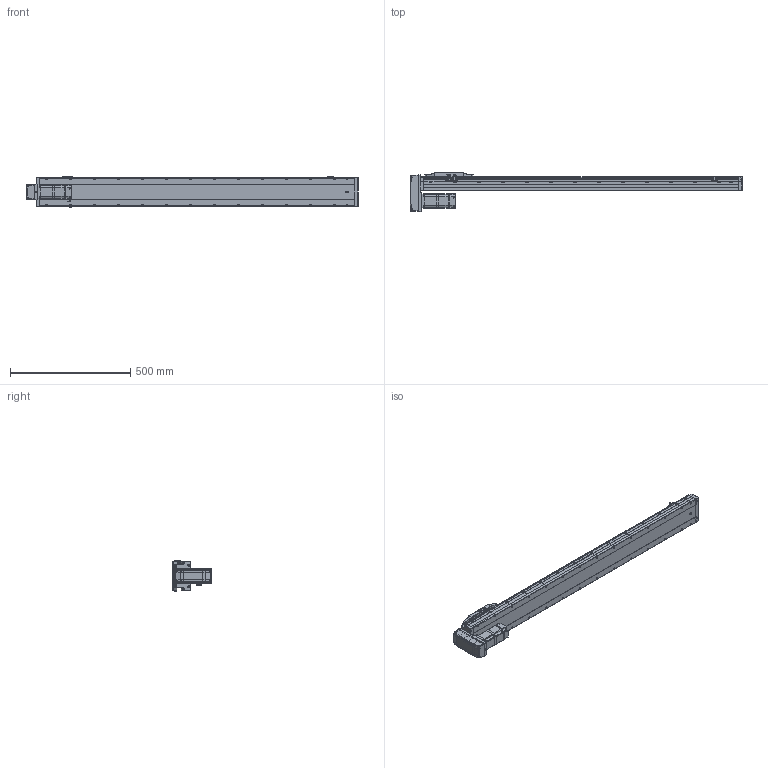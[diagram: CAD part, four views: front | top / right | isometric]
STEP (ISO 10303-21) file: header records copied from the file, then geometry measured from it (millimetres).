
FILE_DESCRIPTION (( 'STEP AP214' ), '1' );
FILE_NAME ('CTH12-L10-S1100-BM-C40（简）.STEP', '2023-02-04T06:40:38', ( '' ), ( '' ), 'SwSTEP 2.0', 'SolidWorks 2018', '' );
FILE_SCHEMA (( 'AUTOMOTIVE_DESIGN' ));
Length unit declared in the file: millimetre
Products named in the file (25): 湮賑怢  裔赽-1(CTH12)賑怢; CTH嫖萇羲壽假蚾啣; 嫖萇羲壽郪磁1; CTH12賑怢郪磁; CTH400W假蚾啣; 内六角圆柱头螺钉M5装饰螺钉; CTH12_body_3; AC60_Valor predeterminado; 内六角圆柱头螺钉M3-1; CTH12-BM-02; CTH12賑怢ㄗ潠ㄘ; CTH400W垫板（3个厚）; CTH12-BL_body_4; CTH12; CTH8耜蚾蟀諉啣ㄗ潠ㄘ; CTH12底座-L1311简（1100行程）; hex nuts, style 1-grades ab gb_GB_FASTENER_NUT_SNAB1 M3-N; 嫖萇羲壽郪磁2; PM-Y45; CTH12-L10-S1100-BM-C40（简）; 蚐郲; CTH12覜茼え; 内六角圆柱头螺钉M3-2; BM-C40; 内六角圆柱头螺钉M3
Assembly tree (45 placements, depth 4):
  CTH12-L10-S1100-BM-C40（简）
    CTH12底座-L1311简（1100行程）
    蚐郲  x2
    CTH12_body_3
    CTH12-BL_body_4
    CTH12賑怢郪磁
      CTH12
        湮賑怢  裔赽-1(CTH12)賑怢
        CTH12賑怢ㄗ潠ㄘ
    CTH12覜茼え
    嫖萇羲壽郪磁1  x2
      CTH嫖萇羲壽假蚾啣
      PM-Y45
      内六角圆柱头螺钉M3-2
      内六角圆柱头螺钉M3-1
      hex nuts, style 1-grades ab gb_GB_FASTENER_NUT_SNAB1 M3-N
    嫖萇羲壽郪磁2
      CTH嫖萇羲壽假蚾啣
      PM-Y45
      内六角圆柱头螺钉M3-1  x2
      内六角圆柱头螺钉M3-2  x2
      hex nuts, style 1-grades ab gb_GB_FASTENER_NUT_SNAB1 M3-N  x2
    BM-C40
      CTH12-BM-02
      CTH8耜蚾蟀諉啣ㄗ潠ㄘ
    CTH400W垫板（3个厚）
    AC60_Valor predeterminado
    内六角圆柱头螺钉M3  x6
    内六角圆柱头螺钉M5装饰螺钉  x4
    CTH400W假蚾啣
Bounding box: 1381.5 x 162.5 x 131.52 mm (x, y, z)
Volume: 9210719.9 mm3; surface area: 804059 mm2
Topology: 47 solids, 48 shells, 2991 faces, 7589 edges, 4817 vertices
Faces by surface type: plane 1582, cylinder 874, cone 363, bspline 120, torus 52
Entity records: 84009 total; most frequent: CARTESIAN_POINT 20453, ORIENTED_EDGE 12358, DIRECTION 12280, EDGE_CURVE 6179, AXIS2_PLACEMENT_3D 4195, VERTEX_POINT 3921, LINE 3890, VECTOR 3890
